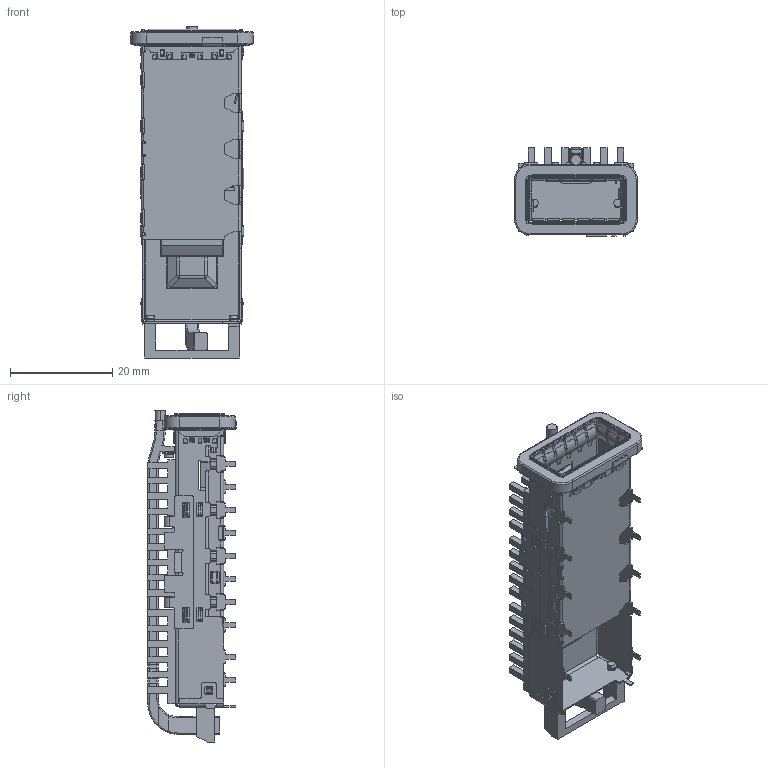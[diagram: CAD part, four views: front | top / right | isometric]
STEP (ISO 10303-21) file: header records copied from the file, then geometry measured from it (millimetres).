
FILE_DESCRIPTION((''),'2;1');
FILE_NAME('C-2170754-8','2019-02-28T03:15:29',('workeradm'),('TE Connectivity Ltd.'),'CREO PARAMETRIC BY PTC INC, 2018190','CREO PARAMETRIC BY PTC INC, 2018190','');
FILE_SCHEMA(('AUTOMOTIVE_DESIGN { 1 0 10303 214 1 1 1 1 }'));
Products named in the file (1): C-2170754-8
Bounding box: 23.95 x 17.27 x 64.85 mm (x, y, z)
Volume: 3917.3 mm3; surface area: 11316.5 mm2
Topology: 1 solids, 1 shells, 2504 faces, 7199 edges, 4679 vertices
Faces by surface type: plane 1341, cylinder 967, bspline 114, cone 34, torus 32, sphere 16
Entity records: 91588 total; most frequent: CARTESIAN_POINT 25790, ORIENTED_EDGE 14398, DIRECTION 13172, EDGE_CURVE 7199, VECTOR 4760, LINE 4760, VERTEX_POINT 4679, AXIS2_PLACEMENT_3D 4206
